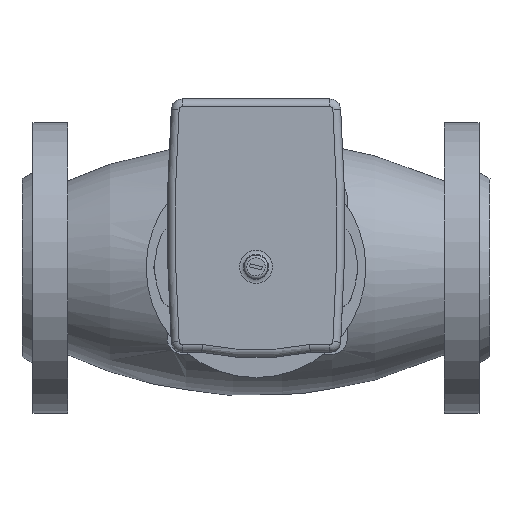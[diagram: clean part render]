
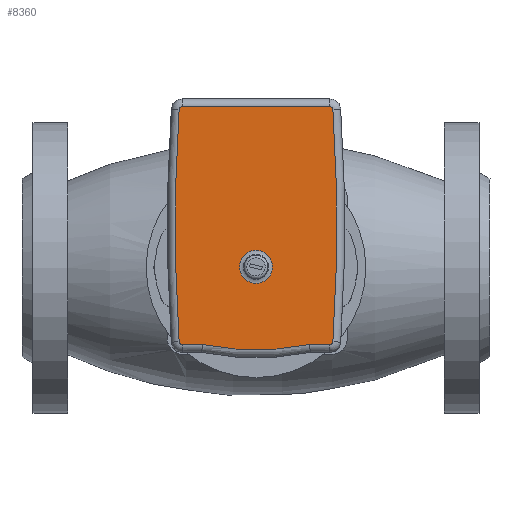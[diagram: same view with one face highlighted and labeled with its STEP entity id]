
A CAD part, top view. The second image highlights one B-rep face of the part: STEP entity #8360.
In plain terms, the highlighted planar face has unit normal (0, 0, 1).
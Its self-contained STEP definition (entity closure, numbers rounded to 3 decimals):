
#98=LINE('',#12308,#510);
#99=LINE('',#12312,#511);
#100=LINE('',#12320,#512);
#510=VECTOR('',#9594,1000.);
#511=VECTOR('',#9597,1000.);
#512=VECTOR('',#9604,1000.);
#1284=ORIENTED_EDGE('',*,*,#2918,.T.);
#1285=ORIENTED_EDGE('',*,*,#2919,.F.);
#1286=ORIENTED_EDGE('',*,*,#2920,.F.);
#1287=ORIENTED_EDGE('',*,*,#2921,.F.);
#1288=ORIENTED_EDGE('',*,*,#2922,.F.);
#1289=ORIENTED_EDGE('',*,*,#2923,.F.);
#1290=ORIENTED_EDGE('',*,*,#2924,.F.);
#1291=ORIENTED_EDGE('',*,*,#2925,.F.);
#1292=ORIENTED_EDGE('',*,*,#2926,.F.);
#1293=ORIENTED_EDGE('',*,*,#2927,.F.);
#1294=ORIENTED_EDGE('',*,*,#2928,.F.);
#2918=EDGE_CURVE('',#3756,#3756,#4291,.T.);
#2919=EDGE_CURVE('',#3757,#3758,#4292,.T.);
#2920=EDGE_CURVE('',#3759,#3757,#98,.T.);
#2921=EDGE_CURVE('',#3760,#3759,#4293,.T.);
#2922=EDGE_CURVE('',#3761,#3760,#99,.T.);
#2923=EDGE_CURVE('',#3762,#3761,#4294,.T.);
#2924=EDGE_CURVE('',#3763,#3762,#4295,.T.);
#2925=EDGE_CURVE('',#3764,#3763,#4296,.T.);
#2926=EDGE_CURVE('',#3765,#3764,#100,.T.);
#2927=EDGE_CURVE('',#3766,#3765,#4297,.T.);
#2928=EDGE_CURVE('',#3758,#3766,#4298,.T.);
#3756=VERTEX_POINT('',#12303);
#3757=VERTEX_POINT('',#12306);
#3758=VERTEX_POINT('',#12307);
#3759=VERTEX_POINT('',#12309);
#3760=VERTEX_POINT('',#12311);
#3761=VERTEX_POINT('',#12313);
#3762=VERTEX_POINT('',#12315);
#3763=VERTEX_POINT('',#12317);
#3764=VERTEX_POINT('',#12319);
#3765=VERTEX_POINT('',#12321);
#3766=VERTEX_POINT('',#12323);
#4291=CIRCLE('',#8769,10.521);
#4292=CIRCLE('',#8771,1.964);
#4293=CIRCLE('',#8772,169.964);
#4294=CIRCLE('',#8773,1.964);
#4295=CIRCLE('',#8774,1096.964);
#4296=CIRCLE('',#8775,1.964);
#4297=CIRCLE('',#8776,1.964);
#4298=CIRCLE('',#8777,1096.964);
#4686=EDGE_LOOP('',(#1284));
#4687=EDGE_LOOP('',(#1285,#1286,#1287,#1288,#1289,#1290,#1291,#1292,#1293,
#1294));
#5159=FACE_BOUND('',#4686,.T.);
#5160=FACE_BOUND('',#4687,.T.);
#5562=PLANE('',#8770);
#8360=ADVANCED_FACE('',(#5159,#5160),#5562,.F.);
#8769=AXIS2_PLACEMENT_3D('',#12302,#9588,#9589);
#8770=AXIS2_PLACEMENT_3D('',#12304,#9590,#9591);
#8771=AXIS2_PLACEMENT_3D('',#12305,#9592,#9593);
#8772=AXIS2_PLACEMENT_3D('',#12310,#9595,#9596);
#8773=AXIS2_PLACEMENT_3D('',#12314,#9598,#9599);
#8774=AXIS2_PLACEMENT_3D('',#12316,#9600,#9601);
#8775=AXIS2_PLACEMENT_3D('',#12318,#9602,#9603);
#8776=AXIS2_PLACEMENT_3D('',#12322,#9605,#9606);
#8777=AXIS2_PLACEMENT_3D('',#12324,#9607,#9608);
#9588=DIRECTION('',(0.,0.,-1.));
#9589=DIRECTION('',(0.,-1.,0.));
#9590=DIRECTION('',(0.,0.,-1.));
#9591=DIRECTION('',(0.,-1.,0.));
#9592=DIRECTION('',(0.,0.,-1.));
#9593=DIRECTION('',(0.,-1.,0.));
#9594=DIRECTION('',(-1.,0.,0.));
#9595=DIRECTION('',(0.,0.,-1.));
#9596=DIRECTION('',(0.,-1.,0.));
#9597=DIRECTION('',(-1.,0.,0.));
#9598=DIRECTION('',(0.,0.,-1.));
#9599=DIRECTION('',(0.,-1.,0.));
#9600=DIRECTION('',(0.,0.,-1.));
#9601=DIRECTION('',(0.,-1.,0.));
#9602=DIRECTION('',(0.,0.,-1.));
#9603=DIRECTION('',(0.,-1.,0.));
#9604=DIRECTION('',(1.,0.,0.));
#9605=DIRECTION('',(0.,0.,-1.));
#9606=DIRECTION('',(0.,-1.,0.));
#9607=DIRECTION('',(0.,0.,-1.));
#9608=DIRECTION('',(0.,-1.,0.));
#12302=CARTESIAN_POINT('',(58.754,143.,503.141));
#12303=CARTESIAN_POINT('',(58.754,132.479,503.141));
#12304=CARTESIAN_POINT('',(58.754,143.,503.141));
#12305=CARTESIAN_POINT('',(11.754,95.492,503.141));
#12306=CARTESIAN_POINT('',(11.754,93.528,503.141));
#12307=CARTESIAN_POINT('',(9.794,95.36,503.141));
#12308=CARTESIAN_POINT('',(24.155,93.528,503.141));
#12309=CARTESIAN_POINT('',(24.658,93.528,503.141));
#12310=CARTESIAN_POINT('',(58.754,260.037,503.141));
#12311=CARTESIAN_POINT('',(92.849,93.528,503.141));
#12312=CARTESIAN_POINT('',(105.754,93.528,503.141));
#12313=CARTESIAN_POINT('',(105.754,93.528,503.141));
#12314=CARTESIAN_POINT('',(105.754,95.492,503.141));
#12315=CARTESIAN_POINT('',(107.714,95.36,503.141));
#12316=CARTESIAN_POINT('',(-986.76,169.246,503.141));
#12317=CARTESIAN_POINT('',(107.714,243.132,503.141));
#12318=CARTESIAN_POINT('',(105.754,243.,503.141));
#12319=CARTESIAN_POINT('',(105.754,244.964,503.141));
#12320=CARTESIAN_POINT('',(11.754,244.964,503.141));
#12321=CARTESIAN_POINT('',(11.754,244.964,503.141));
#12322=CARTESIAN_POINT('',(11.754,243.,503.141));
#12323=CARTESIAN_POINT('',(9.794,243.132,503.141));
#12324=CARTESIAN_POINT('',(1104.267,169.246,503.141));
